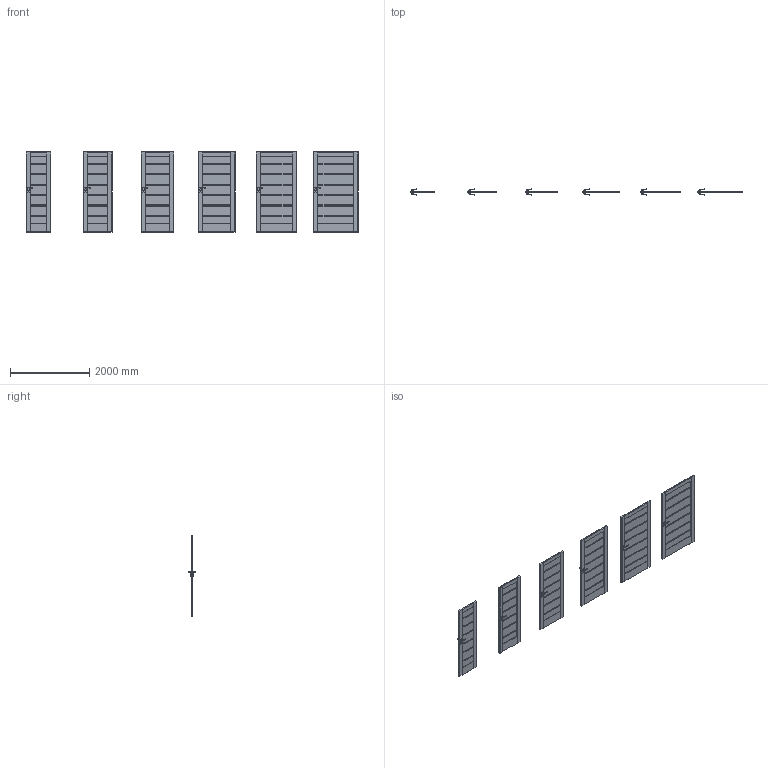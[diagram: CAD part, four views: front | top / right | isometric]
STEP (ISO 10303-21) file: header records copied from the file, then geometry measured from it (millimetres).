
FILE_DESCRIPTION(/* description */ (''),/* implementation_level */ '2;1');
FILE_NAME(/* name */ '049773_A_2-Skrzydło Verte Home model J_ polska norma _PN__ bezprzylgowe..stp',/* time_stamp */ '2024-03-13T11:45:48+01:00',/* author */ (''),/* organization */ (''),/* preprocessor_version */ 'ST-DEVELOPER v16',/* originating_system */ 'SIEMENS PLM Software NX 11.0',/* authorisation */ '');
FILE_SCHEMA (('AUTOMOTIVE_DESIGN { 1 0 10303 214 3 1 1 1 }'));
Products named in the file (1): bkni33389E1Da5uc
Bounding box: 8368 x 153.27 x 2017.01 mm (x, y, z)
Volume: 225566201.9 mm3; surface area: 23559003.5 mm2
Topology: 30 solids, 30 shells, 1788 faces, 4656 edges, 2808 vertices
Faces by surface type: plane 924, cylinder 504, bspline 192, sphere 168
Entity records: 60076 total; most frequent: CARTESIAN_POINT 17509, ORIENTED_EDGE 8976, DIRECTION 8570, EDGE_CURVE 4488, LINE 2880, VECTOR 2880, AXIS2_PLACEMENT_3D 2845, VERTEX_POINT 2808
